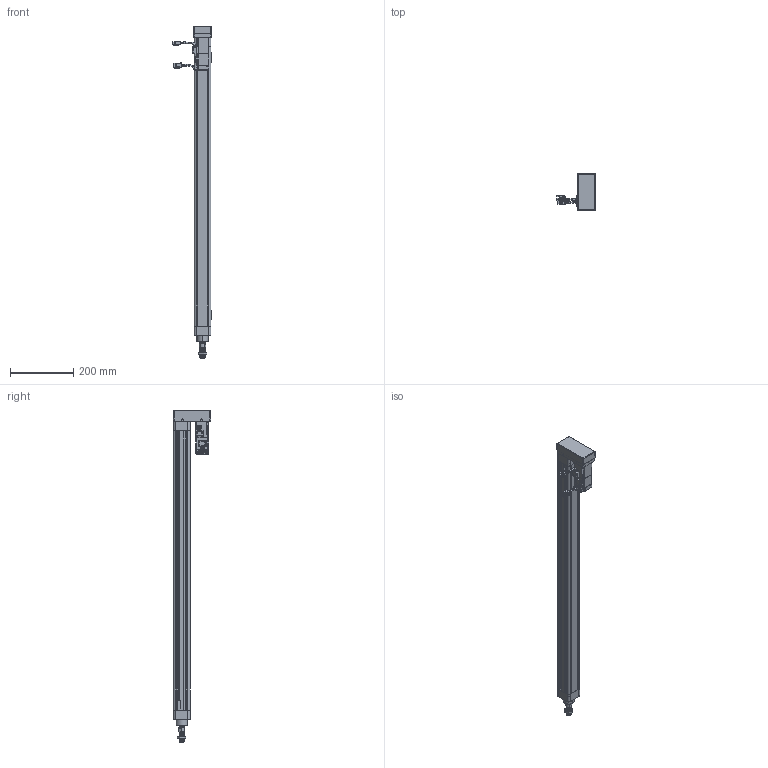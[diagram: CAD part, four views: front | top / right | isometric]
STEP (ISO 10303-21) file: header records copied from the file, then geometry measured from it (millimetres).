
FILE_DESCRIPTION (( 'STEP AP203' ), '1' );
FILE_NAME ('VEC50-10-C-800-MF-ZP10B-MS2.STEP', '2019-01-26T03:33:22', ( 'vobosh 6' ), ( 'Microsoft' ), 'SwSTEP 2.0', 'SolidWorks 2016', '' );
FILE_SCHEMA (( 'CONFIG_CONTROL_DESIGN' ));
Length unit declared in the file: millimetre
Products named in the file (12): VEC50-MF-200-005-X1; VEC50-MF-200-003-X1; VEC50-10-C-800-MF-ZP10B-MS2; 带尾螺母M6x9x45（镀镍）; 柈ч肣薦え耳9x耳8.5x4.4; VEC50-MF-200-011-X1; CS1-M; 鞠褒蹟譫M16x1.5; VEC50-MF-200-004-X1; VEC50-MF-200-001-X1; MHMF012L1V2; VEC50-MF-200-002-X1
Assembly tree (20 placements, depth 2):
  VEC50-10-C-800-MF-ZP10B-MS2
    VEC50-MF-200-001-X1
    VEC50-MF-200-002-X1
    VEC50-MF-200-003-X1
    带尾螺母M6x9x45（镀镍）  x8
    柈ч肣薦え耳9x耳8.5x4.4  x2
    VEC50-MF-200-011-X1
    CS1-M  x2
    鞠褒蹟譫M16x1.5
    VEC50-MF-200-004-X1
    MHMF012L1V2
    VEC50-MF-200-005-X1
Bounding box: 122.5 x 118 x 1049 mm (x, y, z)
Volume: 1515573.3 mm3; surface area: 546177 mm2
Topology: 27 solids, 27 shells, 1970 faces, 4861 edges, 3048 vertices
Faces by surface type: plane 902, cylinder 703, cone 239, bspline 117, torus 9
Entity records: 59744 total; most frequent: CARTESIAN_POINT 16772, DIRECTION 8631, ORIENTED_EDGE 8630, EDGE_CURVE 4315, AXIS2_PLACEMENT_3D 2988, VERTEX_POINT 2755, VECTOR 2655, LINE 2655
